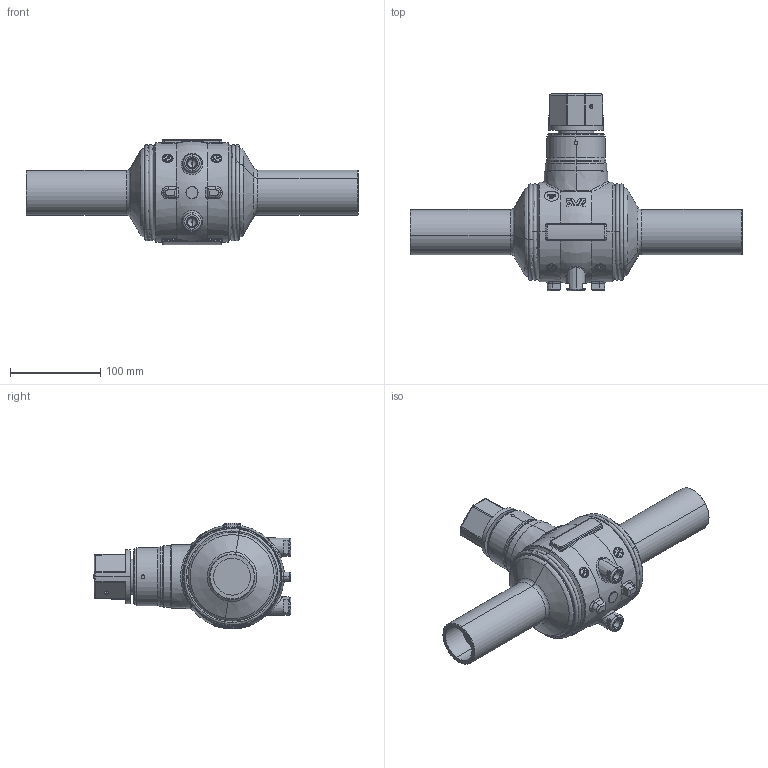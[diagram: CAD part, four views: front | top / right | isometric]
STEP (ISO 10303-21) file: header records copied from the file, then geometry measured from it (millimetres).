
FILE_DESCRIPTION (( 'STEP AP203' ), '1' );
FILE_NAME ('SOLID MAGNUS BALL VALVE OD50-DN40.STEP', '2021-01-12T10:31:20', ( '' ), ( '' ), 'SwSTEP 2.0', 'SolidWorks 2020', '' );
FILE_SCHEMA (( 'CONFIG_CONTROL_DESIGN' ));
Length unit declared in the file: millimetre
Products named in the file (1): SOLID MAGNUS BALL VALVE OD50-DN40
Bounding box: 367.1 x 218.7 x 117.05 mm (x, y, z)
Volume: 1833859.2 mm3; surface area: 138498.5 mm2
Topology: 1 solids, 1 shells, 1300 faces, 3314 edges, 2119 vertices
Faces by surface type: plane 514, bspline 386, cylinder 230, torus 99, cone 53, sphere 18
Entity records: 58923 total; most frequent: CARTESIAN_POINT 31010, ORIENTED_EDGE 6592, DIRECTION 4485, EDGE_CURVE 3296, VERTEX_POINT 2119, AXIS2_PLACEMENT_3D 1519, LINE 1447, VECTOR 1447
